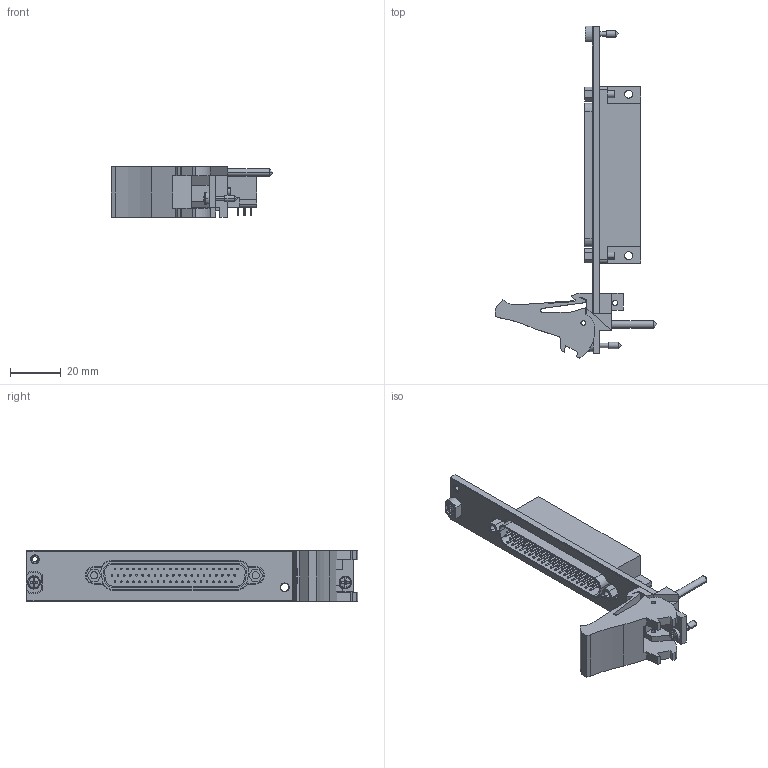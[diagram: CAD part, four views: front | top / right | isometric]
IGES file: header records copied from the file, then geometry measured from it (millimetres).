
Start section:  PTC IGES file: cu_pxi-37pin_dsub.igs
Global section: file name: cu_pxi-37pin_dsub.igs; native system: Pro/ENGINEER by Parametric Technology Corporation; preprocessor: 2010230; author: dkendric; organization: Unknown; date: 20110523.161901; units: inch
Bounding box: 63.53 x 130.51 x 20.02 mm (x, y, z)
Surface area: 17403.1 mm2 (no closed solid volume)
Topology: 0 solids, 0 shells, 732 faces, 3384 edges, 3380 vertices
Faces by surface type: revolution 371, bspline 361
